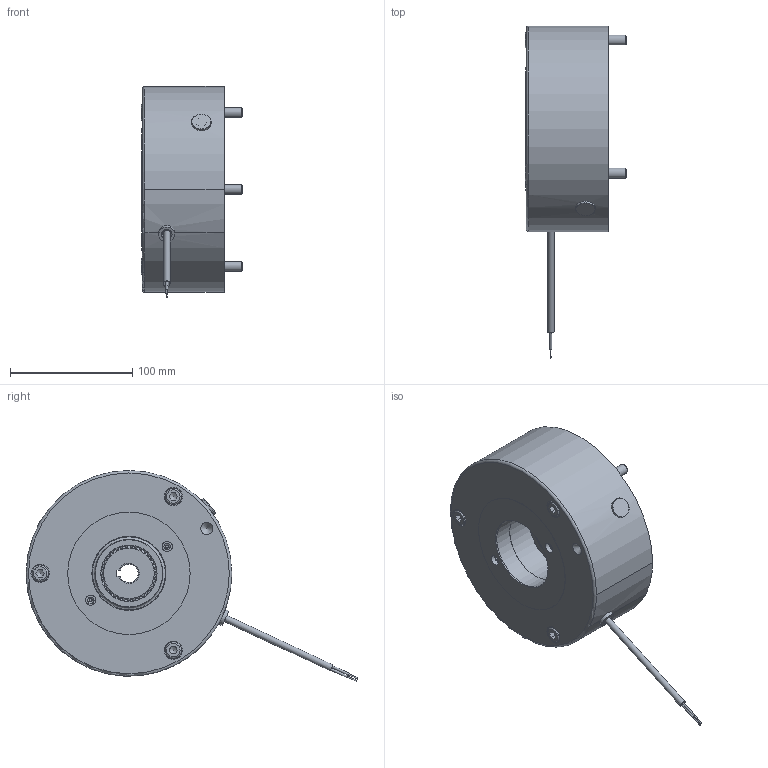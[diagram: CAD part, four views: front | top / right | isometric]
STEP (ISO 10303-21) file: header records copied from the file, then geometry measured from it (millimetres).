
FILE_DESCRIPTION(/* description */ (''),/* implementation_level */ '2;1');
FILE_NAME(/* name */ 'C:\SapWorkDir\Inventor\IP1\ConvertTempPath\5028800_IPT_000.ipt.stp',/* time_stamp */ '2020-09-18T11:38:24+02:00',/* author */ ('STRATE'),/* organization */ (''),/* preprocessor_version */ 'ST-DEVELOPER v17',/* originating_system */ 'Autodesk Inventor 2018',/* authorisation */ '');
FILE_SCHEMA (('AUTOMOTIVE_DESIGN { 1 0 10303 214 3 1 1 }'));
Length unit declared in the file: millimetre
Products named in the file (1): 5028800
Bounding box: 83 x 271.01 x 172.34 mm (x, y, z)
Volume: 1261759.2 mm3; surface area: 176787.9 mm2
Topology: 3 solids, 3 shells, 478 faces, 1348 edges, 914 vertices
Faces by surface type: cylinder 334, plane 93, cone 31, torus 20
Full cylindrical faces by diameter (mm): 0.01 x1, 1 x2, 1.85 x2, 5.3 x1, 6 x2, 6.3 x2, 6.6 x1, 7 x4, 7.6 x1, 8 x3, 8.376 x2, 9 x2, 9.8 x3, 10 x3, 11 x2, 13 x3, 13.2 x1, 13.9 x3, 15 x3, 16 x1, 60 x1, 60.2 x1, 60.5 x1, 79.5 x2, 80.1 x2, 100 x1, 124 x1, 156.5 x1, 159 x1, 165.2 x1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
Entity records: 17320 total; most frequent: CARTESIAN_POINT 4342, ORIENTED_EDGE 2692, DIRECTION 2532, EDGE_CURVE 1346, AXIS2_PLACEMENT_3D 1040, VERTEX_POINT 914, CIRCLE 561, EDGE_LOOP 546
